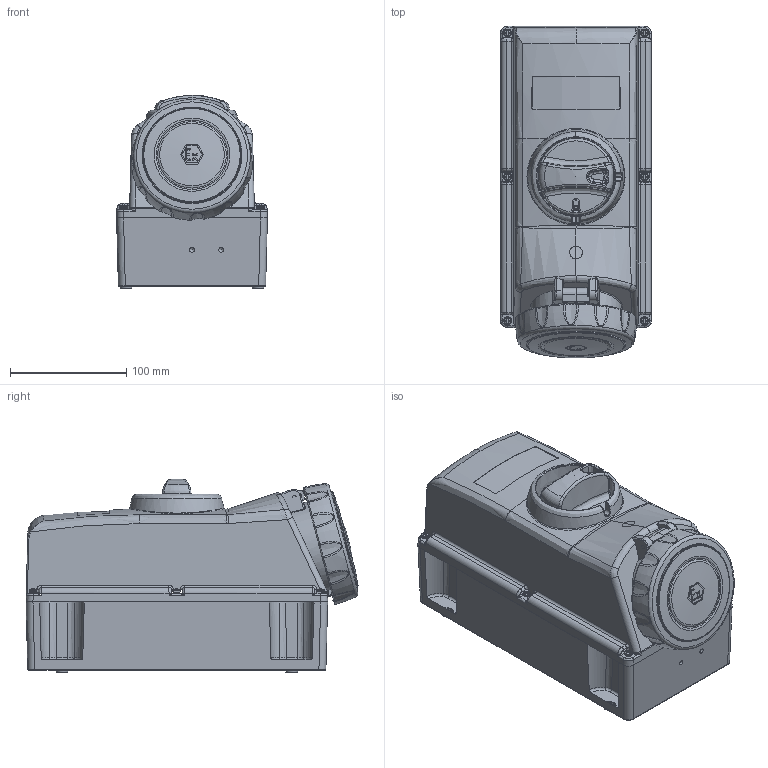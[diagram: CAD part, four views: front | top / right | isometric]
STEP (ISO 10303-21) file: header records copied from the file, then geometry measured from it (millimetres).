
FILE_DESCRIPTION(/* description */ (''),/* implementation_level */ '2;1');
FILE_NAME(/* name */ '4000899.stp',/* time_stamp */ '2016-09-22T08:14:28+02:00',/* author */ (''),/* organization */ (''),/* preprocessor_version */ 'ST-DEVELOPER v16',/* originating_system */ 'SIEMENS PLM Software NX 11.0',/* authorisation */ '');
FILE_SCHEMA (('AUTOMOTIVE_DESIGN { 1 0 10303 214 3 1 1 1 }'));
Length unit declared in the file: millimetre
Products named in the file (1): 4000899_LINKEDEXT_jt
Bounding box: 130 x 286.17 x 166.8 mm (x, y, z)
Surface area: 238657.8 mm2 (no closed solid volume)
Topology: 0 solids, 50 shells, 527 faces, 1936 edges, 1381 vertices
Faces by surface type: bspline 195, cylinder 125, plane 101, torus 58, cone 31, sphere 17
Full cylindrical faces by diameter (mm): 1 x1, 5.7 x2, 6.8 x5, 84 x1, 84.5 x1
Entity records: 36821 total; most frequent: CARTESIAN_POINT 19333, ORIENTED_EDGE 2713, DIRECTION 2268, EDGE_CURVE 1852, VERTEX_POINT 1352, AXIS2_PLACEMENT_3D 868, B_SPLINE_CURVE_WITH_KNOTS 781, EDGE_LOOP 573
